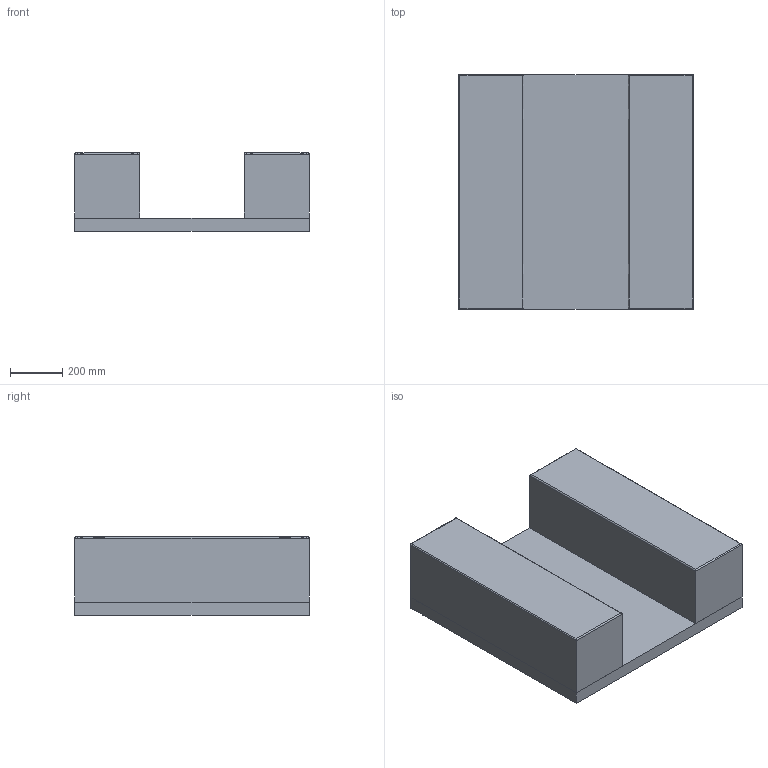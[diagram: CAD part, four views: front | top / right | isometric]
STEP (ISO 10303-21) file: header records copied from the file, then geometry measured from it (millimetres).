
FILE_DESCRIPTION(/* description */ (''),/* implementation_level */ '2;1');
FILE_NAME(/* name */ 'kinoshita_baobabland_k040',/* time_stamp */ '2026-04-02T14:25:38+09:00',/* author */ (''),/* organization */ (''),/* preprocessor_version */ 'ST-DEVELOPER v16.5',/* originating_system */ '',/* authorisation */ '');
FILE_SCHEMA (('AUTOMOTIVE_DESIGN'));
Length unit declared in the file: millimetre
Products named in the file (1): Document
Bounding box: 900 x 900 x 300 mm (x, y, z)
Volume: 152975406.6 mm3; surface area: 3840100 mm2
Topology: 3 solids, 3 shells, 26 faces, 52 edges, 32 vertices
Faces by surface type: plane 18, bspline 8
Entity records: 807 total; most frequent: CARTESIAN_POINT 404, ORIENTED_EDGE 104, EDGE_CURVE 52, B_SPLINE_CURVE_WITH_KNOTS 52, VERTEX_POINT 32, ADVANCED_FACE 26, FACE_OUTER_BOUND 26, EDGE_LOOP 26
